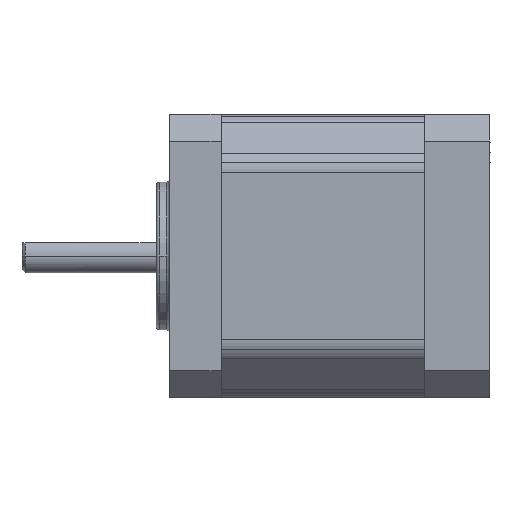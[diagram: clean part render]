
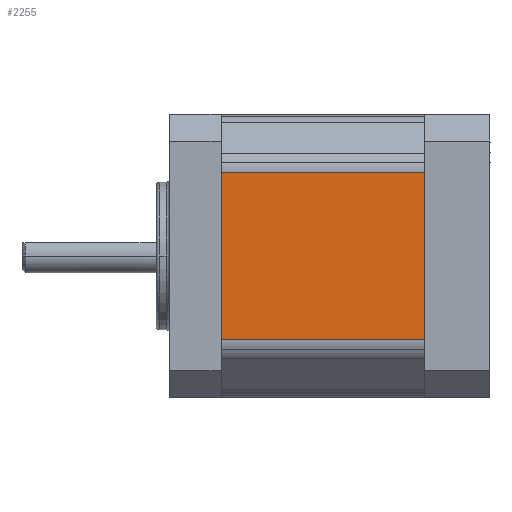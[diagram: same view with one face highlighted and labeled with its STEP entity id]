
A CAD part, left-side view. The second image highlights one B-rep face of the part: STEP entity #2255.
In plain terms, the highlighted planar face has unit normal (-1, 0, 0).
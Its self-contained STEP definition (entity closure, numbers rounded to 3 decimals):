
#1472=CARTESIAN_POINT('Vertex',(-21.1,-15.2,12.443)) ;
#1475=CARTESIAN_POINT('Line Origine',(-21.1,-15.2,0.)) ;
#1479=CARTESIAN_POINT('Vertex',(-21.1,-15.2,-12.443)) ;
#2217=CARTESIAN_POINT('Vertex',(-21.1,15.2,12.443)) ;
#2220=CARTESIAN_POINT('Line Origine',(-21.1,0.,12.443)) ;
#2232=CARTESIAN_POINT('Axis2P3D Location',(-21.1,0.,-21.1)) ;
#2237=CARTESIAN_POINT('Line Origine',(-21.1,15.2,0.)) ;
#2241=CARTESIAN_POINT('Vertex',(-21.1,15.2,-12.443)) ;
#2244=CARTESIAN_POINT('Line Origine',(-21.1,0.,-12.443)) ;
#1476=DIRECTION('Vector Direction',(0.,0.,-1.)) ;
#2221=DIRECTION('Vector Direction',(0.,-1.,0.)) ;
#2233=DIRECTION('Axis2P3D Direction',(-1.,0.,0.)) ;
#2234=DIRECTION('Axis2P3D XDirection',(0.,0.,1.)) ;
#2238=DIRECTION('Vector Direction',(0.,0.,1.)) ;
#2245=DIRECTION('Vector Direction',(0.,1.,0.)) ;
#2235=AXIS2_PLACEMENT_3D('Plane Axis2P3D',#2232,#2233,#2234) ;
#2250=ORIENTED_EDGE('',*,*,#2224,.F.) ;
#2251=ORIENTED_EDGE('',*,*,#2243,.F.) ;
#2252=ORIENTED_EDGE('',*,*,#2248,.F.) ;
#2253=ORIENTED_EDGE('',*,*,#1481,.F.) ;
#1477=VECTOR('Line Direction',#1476,1.) ;
#2222=VECTOR('Line Direction',#2221,1.) ;
#2239=VECTOR('Line Direction',#2238,1.) ;
#2246=VECTOR('Line Direction',#2245,1.) ;
#2255=ADVANCED_FACE('Solid1',(#2254),#2236,.T.) ;
#1481=EDGE_CURVE('',#1473,#1480,#1478,.T.) ;
#2224=EDGE_CURVE('',#2218,#1473,#2223,.T.) ;
#2243=EDGE_CURVE('',#2242,#2218,#2240,.T.) ;
#2248=EDGE_CURVE('',#1480,#2242,#2247,.T.) ;
#2249=EDGE_LOOP('',(#2250,#2251,#2252,#2253)) ;
#2254=FACE_OUTER_BOUND('',#2249,.T.) ;
#1478=LINE('Line',#1475,#1477) ;
#2223=LINE('Line',#2220,#2222) ;
#2240=LINE('Line',#2237,#2239) ;
#2247=LINE('Line',#2244,#2246) ;
#2236=PLANE('',#2235) ;
#1473=VERTEX_POINT('',#1472) ;
#1480=VERTEX_POINT('',#1479) ;
#2218=VERTEX_POINT('',#2217) ;
#2242=VERTEX_POINT('',#2241) ;
